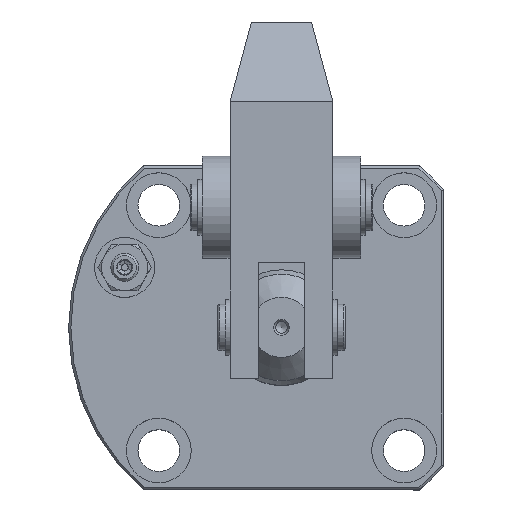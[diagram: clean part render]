
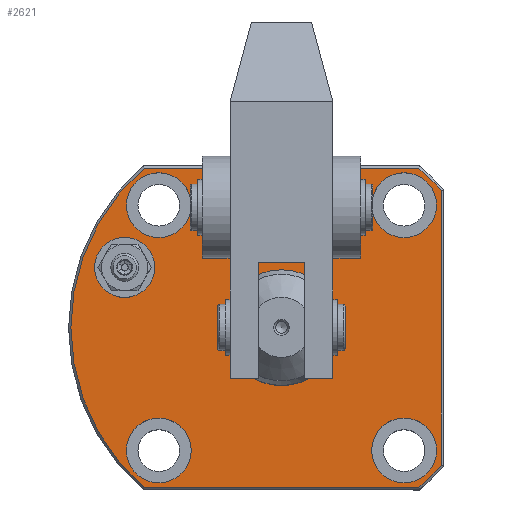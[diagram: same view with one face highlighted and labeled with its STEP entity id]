
A CAD part, top view. The second image highlights one B-rep face of the part: STEP entity #2621.
In plain terms, the highlighted planar face has unit normal (0, 0, 1).
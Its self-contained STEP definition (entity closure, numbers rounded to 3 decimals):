
#199=CIRCLE('',#2854,12.5);
#239=CIRCLE('',#2928,7.);
#240=CIRCLE('',#2930,7.);
#241=CIRCLE('',#2932,7.);
#242=CIRCLE('',#2934,7.);
#243=CIRCLE('',#2936,45.5);
#244=CIRCLE('',#2937,45.5);
#245=CIRCLE('',#2938,45.5);
#246=CIRCLE('',#2939,6.5);
#534=ORIENTED_EDGE('',*,*,#1080,.F.);
#535=ORIENTED_EDGE('',*,*,#1063,.T.);
#536=ORIENTED_EDGE('',*,*,#1084,.T.);
#537=ORIENTED_EDGE('',*,*,#1145,.T.);
#538=ORIENTED_EDGE('',*,*,#1146,.T.);
#539=ORIENTED_EDGE('',*,*,#1147,.T.);
#540=ORIENTED_EDGE('',*,*,#1148,.T.);
#541=ORIENTED_EDGE('',*,*,#1149,.T.);
#542=ORIENTED_EDGE('',*,*,#1150,.T.);
#543=ORIENTED_EDGE('',*,*,#1151,.T.);
#544=ORIENTED_EDGE('',*,*,#1086,.T.);
#545=ORIENTED_EDGE('',*,*,#1152,.T.);
#546=ORIENTED_EDGE('',*,*,#1144,.F.);
#547=ORIENTED_EDGE('',*,*,#1143,.F.);
#548=ORIENTED_EDGE('',*,*,#1142,.F.);
#549=ORIENTED_EDGE('',*,*,#1141,.F.);
#1063=EDGE_CURVE('',#1397,#1396,#1643,.T.);
#1080=EDGE_CURVE('',#1397,#1399,#1658,.T.);
#1084=EDGE_CURVE('',#1396,#1400,#1662,.T.);
#1086=EDGE_CURVE('',#1412,#1412,#199,.T.);
#1141=EDGE_CURVE('',#1461,#1461,#239,.T.);
#1142=EDGE_CURVE('',#1462,#1462,#240,.T.);
#1143=EDGE_CURVE('',#1463,#1463,#241,.T.);
#1144=EDGE_CURVE('',#1464,#1464,#242,.T.);
#1145=EDGE_CURVE('',#1400,#1465,#1678,.T.);
#1146=EDGE_CURVE('',#1465,#1466,#243,.T.);
#1147=EDGE_CURVE('',#1466,#1467,#1679,.T.);
#1148=EDGE_CURVE('',#1467,#1468,#244,.T.);
#1149=EDGE_CURVE('',#1468,#1469,#1680,.T.);
#1150=EDGE_CURVE('',#1469,#1470,#245,.T.);
#1151=EDGE_CURVE('',#1470,#1399,#1681,.T.);
#1152=EDGE_CURVE('',#1471,#1471,#246,.F.);
#1396=VERTEX_POINT('',#3968);
#1397=VERTEX_POINT('',#3970);
#1399=VERTEX_POINT('',#3976);
#1400=VERTEX_POINT('',#3977);
#1412=VERTEX_POINT('',#4017);
#1461=VERTEX_POINT('',#4155);
#1462=VERTEX_POINT('',#4158);
#1463=VERTEX_POINT('',#4161);
#1464=VERTEX_POINT('',#4164);
#1465=VERTEX_POINT('',#4167);
#1466=VERTEX_POINT('',#4169);
#1467=VERTEX_POINT('',#4171);
#1468=VERTEX_POINT('',#4173);
#1469=VERTEX_POINT('',#4175);
#1470=VERTEX_POINT('',#4177);
#1471=VERTEX_POINT('',#4180);
#1643=LINE('',#3969,#1768);
#1658=LINE('',#4004,#1783);
#1662=LINE('',#4011,#1787);
#1678=LINE('',#4166,#1803);
#1679=LINE('',#4170,#1804);
#1680=LINE('',#4174,#1805);
#1681=LINE('',#4178,#1806);
#1768=VECTOR('',#3178,1000.);
#1783=VECTOR('',#3207,1000.);
#1787=VECTOR('',#3215,1000.);
#1803=VECTOR('',#3401,1000.);
#1804=VECTOR('',#3404,1000.);
#1805=VECTOR('',#3407,1000.);
#1806=VECTOR('',#3410,1000.);
#1977=EDGE_LOOP('',(#534,#535,#536,#537,#538,#539,#540,#541,#542,#543));
#1978=EDGE_LOOP('',(#544));
#1979=EDGE_LOOP('',(#545));
#1980=EDGE_LOOP('',(#546));
#1981=EDGE_LOOP('',(#547));
#1982=EDGE_LOOP('',(#548));
#1983=EDGE_LOOP('',(#549));
#2274=FACE_BOUND('',#1977,.T.);
#2275=FACE_BOUND('',#1978,.T.);
#2276=FACE_BOUND('',#1979,.T.);
#2277=FACE_BOUND('',#1980,.T.);
#2278=FACE_BOUND('',#1981,.T.);
#2279=FACE_BOUND('',#1982,.T.);
#2280=FACE_BOUND('',#1983,.T.);
#2511=PLANE('',#2935);
#2621=ADVANCED_FACE('',(#2274,#2275,#2276,#2277,#2278,#2279,#2280),#2511,
 .T.);
#2854=AXIS2_PLACEMENT_3D('',#4016,#3222,#3223);
#2928=AXIS2_PLACEMENT_3D('',#4154,#3385,#3386);
#2930=AXIS2_PLACEMENT_3D('',#4157,#3389,#3390);
#2932=AXIS2_PLACEMENT_3D('',#4160,#3393,#3394);
#2934=AXIS2_PLACEMENT_3D('',#4163,#3397,#3398);
#2935=AXIS2_PLACEMENT_3D('',#4165,#3399,#3400);
#2936=AXIS2_PLACEMENT_3D('',#4168,#3402,#3403);
#2937=AXIS2_PLACEMENT_3D('',#4172,#3405,#3406);
#2938=AXIS2_PLACEMENT_3D('',#4176,#3408,#3409);
#2939=AXIS2_PLACEMENT_3D('',#4179,#3411,#3412);
#3178=DIRECTION('',(-1.,0.,0.));
#3207=DIRECTION('',(0.,1.,0.));
#3215=DIRECTION('',(0.,1.,0.));
#3222=DIRECTION('',(0.,0.,-1.));
#3223=DIRECTION('',(0.,-1.,0.));
#3385=DIRECTION('',(0.,0.,1.));
#3386=DIRECTION('',(1.,0.,0.));
#3389=DIRECTION('',(0.,0.,1.));
#3390=DIRECTION('',(1.,0.,0.));
#3393=DIRECTION('',(0.,0.,1.));
#3394=DIRECTION('',(1.,0.,0.));
#3397=DIRECTION('',(0.,0.,1.));
#3398=DIRECTION('',(1.,0.,0.));
#3399=DIRECTION('',(0.,0.,1.));
#3400=DIRECTION('',(0.,-1.,0.));
#3401=DIRECTION('',(-1.,0.,0.));
#3402=DIRECTION('',(0.,0.,1.));
#3403=DIRECTION('',(0.,-1.,0.));
#3404=DIRECTION('',(1.,0.,0.));
#3405=DIRECTION('',(0.,0.,1.));
#3406=DIRECTION('',(0.,-1.,0.));
#3407=DIRECTION('',(0.,1.,0.));
#3408=DIRECTION('',(0.,0.,1.));
#3409=DIRECTION('',(0.,-1.,0.));
#3410=DIRECTION('',(-1.,0.,0.));
#3411=DIRECTION('',(0.,0.,1.));
#3412=DIRECTION('',(0.,-1.,0.));
#3968=CARTESIAN_POINT('',(-21.85,52.5,17.9));
#3969=CARTESIAN_POINT('',(-10.75,52.5,17.9));
#3970=CARTESIAN_POINT('',(0.35,52.5,17.9));
#3976=CARTESIAN_POINT('',(0.35,71.,17.9));
#3977=CARTESIAN_POINT('',(-21.85,71.,17.9));
#4004=CARTESIAN_POINT('',(0.35,52.5,17.9));
#4011=CARTESIAN_POINT('',(-21.85,52.5,17.9));
#4016=CARTESIAN_POINT('',(-10.75,36.5,17.9));
#4017=CARTESIAN_POINT('',(-10.75,24.,17.9));
#4154=CARTESIAN_POINT('',(-37.25,63.,17.9));
#4155=CARTESIAN_POINT('',(-30.25,63.,17.9));
#4157=CARTESIAN_POINT('',(15.75,63.,17.9));
#4158=CARTESIAN_POINT('',(22.75,63.,17.9));
#4160=CARTESIAN_POINT('',(15.75,10.,17.9));
#4161=CARTESIAN_POINT('',(22.75,10.,17.9));
#4163=CARTESIAN_POINT('',(-37.25,10.,17.9));
#4164=CARTESIAN_POINT('',(-30.25,10.,17.9));
#4165=CARTESIAN_POINT('',(-10.75,36.5,17.9));
#4166=CARTESIAN_POINT('',(-10.75,71.,17.9));
#4167=CARTESIAN_POINT('',(-40.415,71.,17.9));
#4168=CARTESIAN_POINT('',(-10.75,36.5,17.9));
#4169=CARTESIAN_POINT('',(-40.415,2.,17.9));
#4170=CARTESIAN_POINT('',(-10.75,2.,17.9));
#4171=CARTESIAN_POINT('',(18.915,2.,17.9));
#4172=CARTESIAN_POINT('',(-10.75,36.5,17.9));
#4173=CARTESIAN_POINT('',(23.75,6.835,17.9));
#4174=CARTESIAN_POINT('',(23.75,36.5,17.9));
#4175=CARTESIAN_POINT('',(23.75,66.165,17.9));
#4176=CARTESIAN_POINT('',(-10.75,36.5,17.9));
#4177=CARTESIAN_POINT('',(18.915,71.,17.9));
#4178=CARTESIAN_POINT('',(-10.75,71.,17.9));
#4179=CARTESIAN_POINT('',(-44.62,49.56,17.9));
#4180=CARTESIAN_POINT('',(-44.62,43.06,17.9));
